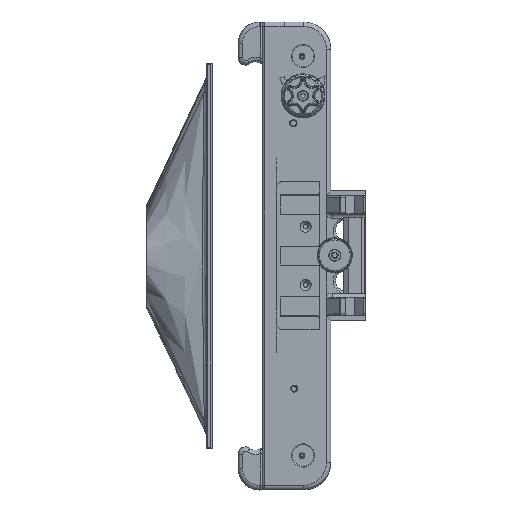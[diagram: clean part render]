
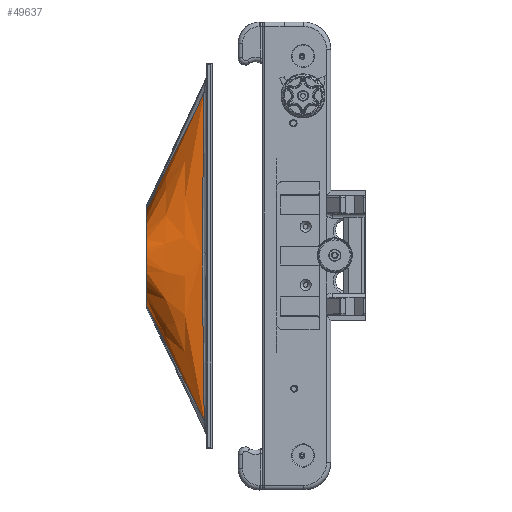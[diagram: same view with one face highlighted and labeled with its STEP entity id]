
A CAD part, top view. The second image highlights one B-rep face of the part: STEP entity #49637.
In plain terms, the highlighted free-form (B-spline) face has degree [3, 3] with [10, 4] control points.
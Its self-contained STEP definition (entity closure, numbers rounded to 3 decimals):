
#241=B_SPLINE_SURFACE_WITH_KNOTS($,3,3,((#96163,#96164,#96165,#96166),(#96167,
#96168,#96169,#96170),(#96171,#96172,#96173,#96174),(#96175,#96176,#96177,
#96178),(#96179,#96180,#96181,#96182),(#96183,#96184,#96185,#96186),(#96187,
#96188,#96189,#96190),(#96191,#96192,#96193,#96194),(#96195,#96196,#96197,
#96198),(#96199,#96200,#96201,#96202)),.UNSPECIFIED.,.F.,.F.,.F.,(4,1,1,
1,1,1,1,4),(4,4),(0.,0.143,0.286,0.429,
0.571,0.714,0.857,1.),(0.036,
1.),.UNSPECIFIED.);
#1069=B_SPLINE_CURVE_WITH_KNOTS($,3,(#95746,#95747,#95748,#95749,#95750,
#95751,#95752,#95753),.UNSPECIFIED.,.F.,.F.,(4,1,1,1,1,4),(-22.54,
-19.32,-16.1,-9.66,-3.22,
0.),.UNSPECIFIED.);
#1085=B_SPLINE_CURVE_WITH_KNOTS($,3,(#96151,#96152,#96153,#96154,#96155,
#96156,#96157,#96158,#96159,#96160,#96161,#96162),.UNSPECIFIED.,.F.,.F.,
(4,1,1,1,1,1,1,2,4),(-9.169,-7.959,-5.969,
-3.98,-2.985,-1.99,-0.995,
0.,0.004),.UNSPECIFIED.);
#1086=B_SPLINE_CURVE_WITH_KNOTS($,3,(#96204,#96205,#96206,#96207,#96208,
#96209,#96210,#96211),.UNSPECIFIED.,.F.,.F.,(4,2,1,1,4),(-9.534,
-9.53,-5.512,-3.503,-0.373),
 .UNSPECIFIED.);
#16644=FACE_OUTER_BOUND($,#19653,.T.);
#19653=EDGE_LOOP($,(#46688,#46689,#46690,#46691,#46692));
#20583=CIRCLE($,#53434,3.55);
#20584=CIRCLE($,#53435,3.55);
#25185=VERTEX_POINT($,#95688);
#25187=VERTEX_POINT($,#95745);
#25199=VERTEX_POINT($,#96064);
#25201=VERTEX_POINT($,#96203);
#25202=VERTEX_POINT($,#96212);
#32353=EDGE_CURVE($,#25185,#25187,#1069,.T.);
#32376=EDGE_CURVE($,#25187,#25199,#1085,.T.);
#32377=EDGE_CURVE($,#25201,#25185,#1086,.T.);
#32378=EDGE_CURVE($,#25201,#25202,#20583,.T.);
#32379=EDGE_CURVE($,#25202,#25199,#20584,.T.);
#46688=ORIENTED_EDGE($,*,*,#32353,.F.);
#46689=ORIENTED_EDGE($,*,*,#32377,.F.);
#46690=ORIENTED_EDGE($,*,*,#32378,.T.);
#46691=ORIENTED_EDGE($,*,*,#32379,.T.);
#46692=ORIENTED_EDGE($,*,*,#32376,.F.);
#49637=ADVANCED_FACE($,(#16644),#241,.F.);
#53434=AXIS2_PLACEMENT_3D($,#96213,#65631,#65632);
#53435=AXIS2_PLACEMENT_3D($,#96214,#65633,#65634);
#65631=DIRECTION('center_axis',(1.,0.,0.));
#65632=DIRECTION('ref_axis',(0.,0.,
-1.));
#65633=DIRECTION('center_axis',(1.,0.,0.));
#65634=DIRECTION('ref_axis',(0.,0.,
-1.));
#95688=CARTESIAN_POINT('',(-13.837,28.111,9.544));
#95745=CARTESIAN_POINT('',(-13.823,5.578,9.54));
#95746=CARTESIAN_POINT('Ctrl Pts',(-13.837,28.111,9.544));
#95747=CARTESIAN_POINT('Ctrl Pts',(-13.855,27.037,9.549));
#95748=CARTESIAN_POINT('Ctrl Pts',(-13.893,24.89,9.562));
#95749=CARTESIAN_POINT('Ctrl Pts',(-13.962,20.598,9.609));
#95750=CARTESIAN_POINT('Ctrl Pts',(-13.984,15.237,9.629));
#95751=CARTESIAN_POINT('Ctrl Pts',(-13.896,9.873,9.559));
#95752=CARTESIAN_POINT('Ctrl Pts',(-13.839,6.652,9.543));
#95753=CARTESIAN_POINT('Ctrl Pts',(-13.823,5.578,9.54));
#96064=CARTESIAN_POINT('',(-17.789,13.483,7.064));
#96151=CARTESIAN_POINT('Ctrl Pts',(-13.823,5.578,9.54));
#96152=CARTESIAN_POINT('Ctrl Pts',(-13.998,5.927,9.44));
#96153=CARTESIAN_POINT('Ctrl Pts',(-14.463,6.849,9.174));
#96154=CARTESIAN_POINT('Ctrl Pts',(-15.224,8.339,8.734));
#96155=CARTESIAN_POINT('Ctrl Pts',(-15.955,9.763,8.291));
#96156=CARTESIAN_POINT('Ctrl Pts',(-16.532,10.902,7.923));
#96157=CARTESIAN_POINT('Ctrl Pts',(-16.959,11.758,7.64));
#96158=CARTESIAN_POINT('Ctrl Pts',(-17.378,12.617,7.354));
#96159=CARTESIAN_POINT('Ctrl Pts',(-17.651,13.192,7.161));
#96160=CARTESIAN_POINT('Ctrl Pts',(-17.788,13.481,7.064));
#96161=CARTESIAN_POINT('Ctrl Pts',(-17.788,13.482,7.064));
#96162=CARTESIAN_POINT('Ctrl Pts',(-17.789,13.483,7.064));
#96163=CARTESIAN_POINT('Ctrl Pts',(-13.823,28.832,9.543));
#96164=CARTESIAN_POINT('Ctrl Pts',(-15.145,25.93,8.815));
#96165=CARTESIAN_POINT('Ctrl Pts',(-16.467,23.027,8.088));
#96166=CARTESIAN_POINT('Ctrl Pts',(-17.789,20.125,7.36));
#96167=CARTESIAN_POINT('Ctrl Pts',(-13.823,27.7,9.557));
#96168=CARTESIAN_POINT('Ctrl Pts',(-15.145,25.122,8.95));
#96169=CARTESIAN_POINT('Ctrl Pts',(-16.467,22.543,8.343));
#96170=CARTESIAN_POINT('Ctrl Pts',(-17.789,19.964,7.737));
#96171=CARTESIAN_POINT('Ctrl Pts',(-13.823,25.432,9.582));
#96172=CARTESIAN_POINT('Ctrl Pts',(-15.145,23.458,9.199));
#96173=CARTESIAN_POINT('Ctrl Pts',(-16.467,21.484,8.817));
#96174=CARTESIAN_POINT('Ctrl Pts',(-17.789,19.51,8.434));
#96175=CARTESIAN_POINT('Ctrl Pts',(-13.823,22.019,9.608));
#96176=CARTESIAN_POINT('Ctrl Pts',(-15.145,20.851,9.468));
#96177=CARTESIAN_POINT('Ctrl Pts',(-16.467,19.683,9.328));
#96178=CARTESIAN_POINT('Ctrl Pts',(-17.789,18.515,9.188));
#96179=CARTESIAN_POINT('Ctrl Pts',(-13.823,18.598,9.622));
#96180=CARTESIAN_POINT('Ctrl Pts',(-15.145,18.173,9.601));
#96181=CARTESIAN_POINT('Ctrl Pts',(-16.467,17.749,9.579));
#96182=CARTESIAN_POINT('Ctrl Pts',(-17.789,17.324,9.558));
#96183=CARTESIAN_POINT('Ctrl Pts',(-13.823,15.176,9.62));
#96184=CARTESIAN_POINT('Ctrl Pts',(-15.145,15.476,9.581));
#96185=CARTESIAN_POINT('Ctrl Pts',(-16.467,15.777,9.542));
#96186=CARTESIAN_POINT('Ctrl Pts',(-17.789,16.077,9.503));
#96187=CARTESIAN_POINT('Ctrl Pts',(-13.823,11.757,9.603));
#96188=CARTESIAN_POINT('Ctrl Pts',(-15.145,12.812,9.411));
#96189=CARTESIAN_POINT('Ctrl Pts',(-16.467,13.868,9.219));
#96190=CARTESIAN_POINT('Ctrl Pts',(-17.789,14.923,9.027));
#96191=CARTESIAN_POINT('Ctrl Pts',(-13.823,8.346,9.573));
#96192=CARTESIAN_POINT('Ctrl Pts',(-15.145,10.23,9.111));
#96193=CARTESIAN_POINT('Ctrl Pts',(-16.467,12.115,8.65));
#96194=CARTESIAN_POINT('Ctrl Pts',(-17.789,13.999,8.188));
#96195=CARTESIAN_POINT('Ctrl Pts',(-13.823,6.08,9.547));
#96196=CARTESIAN_POINT('Ctrl Pts',(-15.145,8.59,8.849));
#96197=CARTESIAN_POINT('Ctrl Pts',(-16.467,11.1,8.151));
#96198=CARTESIAN_POINT('Ctrl Pts',(-17.789,13.61,7.453));
#96199=CARTESIAN_POINT('Ctrl Pts',(-13.823,4.95,9.533));
#96200=CARTESIAN_POINT('Ctrl Pts',(-15.145,7.794,8.71));
#96201=CARTESIAN_POINT('Ctrl Pts',(-16.467,10.639,7.887));
#96202=CARTESIAN_POINT('Ctrl Pts',(-17.789,13.483,7.064));
#96203=CARTESIAN_POINT('',(-17.789,20.125,7.36));
#96204=CARTESIAN_POINT('Ctrl Pts',(-17.789,20.125,7.36));
#96205=CARTESIAN_POINT('Ctrl Pts',(-17.788,20.126,7.36));
#96206=CARTESIAN_POINT('Ctrl Pts',(-17.788,20.127,7.361));
#96207=CARTESIAN_POINT('Ctrl Pts',(-17.242,21.305,7.712));
#96208=CARTESIAN_POINT('Ctrl Pts',(-16.385,23.054,8.231));
#96209=CARTESIAN_POINT('Ctrl Pts',(-15.039,25.703,8.947));
#96210=CARTESIAN_POINT('Ctrl Pts',(-14.289,27.198,9.32));
#96211=CARTESIAN_POINT('Ctrl Pts',(-13.838,28.111,9.544));
#96212=CARTESIAN_POINT('',(-17.789,16.86,9.516));
#96213=CARTESIAN_POINT('Origin',(-17.789,16.86,5.966));
#96214=CARTESIAN_POINT('Origin',(-17.789,16.86,5.966));
